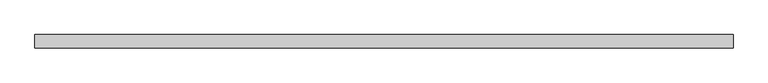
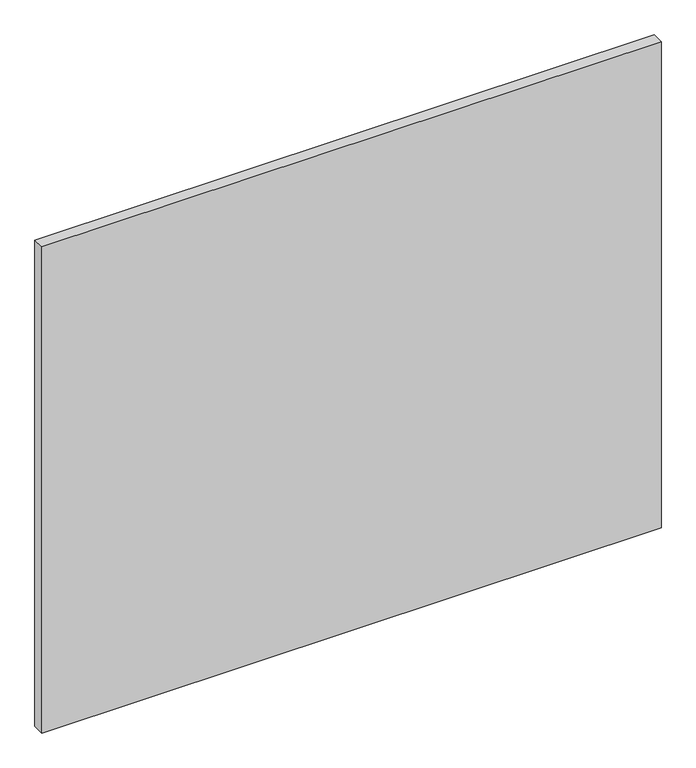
"""IFC4 building model written with IfcOpenShell, lengths in millimetres: plate geometry, システム パネル : ガラス."""

import ifcopenshell
import ifcopenshell.guid

model = None  # the IFC model being written
_history = None  # IfcOwnerHistory: only IFC2X3 demands one
_inside = {}  # id of a spatial element -> (the spatial element, [elements in it])
_under = {}  # id of a project, library or spatial element -> (it, [spatial elements below it])
_declared = {}  # id of a project -> (the project, [libraries it declares])
_typed = {}  # id of a type object -> (the type object, [elements of that type])
_made_of = {}  # id of a material, layer set ... -> (it, [elements and type objects made of it])


def new_model(schema):
    """Start an empty IFC model of exactly this schema.

    Asked for "IFC4X3", IfcOpenShell would pick the latest addendum, in which some entities
    have other attributes; the version numbers below select the first issue.
    IFC2X3 requires an IfcOwnerHistory on every rooted entity: one is made here for all.
    """
    global model, _history
    if schema == "IFC4X3":
        model = ifcopenshell.file(schema_version=(4, 3, 0, 0))
    else:
        model = ifcopenshell.file(schema=schema)
    _inside.clear()
    _under.clear()
    _declared.clear()
    _typed.clear()
    _made_of.clear()
    _history = None
    if model.schema == "IFC2X3":
        org = make("IfcOrganization", Name="unknown")
        user = make(
            "IfcPersonAndOrganization",
            ThePerson=make("IfcPerson", FamilyName="unknown"),
            TheOrganization=org,
        )
        app = make(
            "IfcApplication",
            ApplicationDeveloper=org,
            Version="unknown",
            ApplicationFullName="unknown",
            ApplicationIdentifier="unknown",
        )
        _history = make(
            "IfcOwnerHistory",
            OwningUser=user,
            OwningApplication=app,
            ChangeAction="ADDED",
            CreationDate=0,
        )
    return model


def make(cls, **values):
    """One entity of the class cls with the attributes given. An attribute that is None is left unset."""
    return model.create_entity(
        cls, **{name: value for name, value in values.items() if value is not None}
    )


def rooted(cls, **values):
    """An entity with a GlobalId (a new one), such as an element, a storey or a relation."""
    return make(cls, GlobalId=ifcopenshell.guid.new(), OwnerHistory=_history, **values)


def si_unit(unit_type, name, prefix=None):
    """IfcSIUnit, for example si_unit("LENGTHUNIT", "METRE", prefix="MILLI")."""
    return make("IfcSIUnit", UnitType=unit_type, Prefix=prefix, Name=name)


def assignment(units):
    """IfcUnitAssignment: the units of a project."""
    return None if units is None else make("IfcUnitAssignment", Units=units)


def point(xyz):
    """IfcCartesianPoint."""
    return None if xyz is None else make("IfcCartesianPoint", Coordinates=xyz)


def direction(xyz):
    """IfcDirection."""
    return None if xyz is None else make("IfcDirection", DirectionRatios=xyz)


def frame(location, z_axis=None, x_axis=None):
    """IfcAxis2Placement3D, a coordinate frame: its origin and axes. An axis left out is left unset."""
    return make(
        "IfcAxis2Placement3D",
        Location=point(location),
        Axis=direction(z_axis),
        RefDirection=direction(x_axis),
    )


def origin():
    """The frame at (0, 0, 0) with its axes left unset."""
    return frame((0.0, 0.0, 0.0))


def origin_with_axes():
    """The frame at (0, 0, 0) with the z axis (0, 0, 1) and the x axis (1, 0, 0) written out."""
    return frame((0.0, 0.0, 0.0), z_axis=(0.0, 0.0, 1.0), x_axis=(1.0, 0.0, 0.0))


def place(relative_to, where):
    """IfcLocalPlacement: puts the frame where relative to a parent placement (None: the world)."""
    return make(
        "IfcLocalPlacement", PlacementRelTo=relative_to, RelativePlacement=where
    )


def context(
    kind, dimensions, precision=None, world=None, true_north=None, identifier=None
):
    """IfcGeometricRepresentationContext, for example the 3D "Model" context."""
    return make(
        "IfcGeometricRepresentationContext",
        ContextIdentifier=identifier,
        ContextType=kind,
        CoordinateSpaceDimension=dimensions,
        Precision=precision,
        WorldCoordinateSystem=world,
        TrueNorth=true_north,
    )


def project(units=None, contexts=None):
    """IfcProject with its units and contexts."""
    return rooted(
        "IfcProject",
        Name="project",
        RepresentationContexts=contexts,
        UnitsInContext=assignment(units),
    )


def spatial(cls, under=None, at=None, **own):
    """A site, building, storey or space (cls), placed at a placement, below another one or the project."""
    s = rooted(cls, ObjectPlacement=at, **own)
    if under is not None:
        _under.setdefault(under.id(), (under, []))[1].append(s)
    return s


def polyline(points):
    """IfcPolyline through the points."""
    return make("IfcPolyline", Points=[point(p) for p in points])


def outline(outer, holes=None, kind="AREA"):
    """IfcArbitraryClosedProfileDef: a profile drawn as a closed curve; with holes, ...WithVoids."""
    if holes is None:
        return make("IfcArbitraryClosedProfileDef", ProfileType=kind, OuterCurve=outer)
    return make(
        "IfcArbitraryProfileDefWithVoids",
        ProfileType=kind,
        OuterCurve=outer,
        InnerCurves=holes,
    )


def extrude(swept, where, along, depth):
    """IfcExtrudedAreaSolid: the profile swept, set in the frame where, extruded along a direction by depth."""
    return make(
        "IfcExtrudedAreaSolid",
        SweptArea=swept,
        Position=where,
        ExtrudedDirection=direction(along),
        Depth=depth,
    )


def shape(context_of_items, identifier, shape_type, items):
    """IfcShapeRepresentation: the items that make up one representation, for example the "Body"."""
    return make(
        "IfcShapeRepresentation",
        ContextOfItems=context_of_items,
        RepresentationIdentifier=identifier,
        RepresentationType=shape_type,
        Items=items,
    )


def source(mapping_origin, context_of_items, identifier, shape_type, items):
    """IfcRepresentationMap: a shape defined once, which mapped items show again and again."""
    return make(
        "IfcRepresentationMap",
        MappingOrigin=mapping_origin,
        MappedRepresentation=shape(context_of_items, identifier, shape_type, items),
    )


def transform(
    local_origin,
    x_axis=None,
    y_axis=None,
    z_axis=None,
    scale=None,
    scale2=None,
    scale3=None,
    uniform=True,
):
    """IfcCartesianTransformationOperator3D, or its non-uniform kind. x_axis, y_axis, z_axis: its Axis1, 2, 3."""
    if uniform:
        return make(
            "IfcCartesianTransformationOperator3D",
            Axis1=direction(x_axis),
            Axis2=direction(y_axis),
            LocalOrigin=point(local_origin),
            Scale=scale,
            Axis3=direction(z_axis),
        )
    return make(
        "IfcCartesianTransformationOperator3DnonUniform",
        Axis1=direction(x_axis),
        Axis2=direction(y_axis),
        LocalOrigin=point(local_origin),
        Scale=scale,
        Axis3=direction(z_axis),
        Scale2=scale2,
        Scale3=scale3,
    )


def mapped(mapping_source, mapping_target):
    """IfcMappedItem: shows the shape of a source again, moved by a transform."""
    return make(
        "IfcMappedItem", MappingSource=mapping_source, MappingTarget=mapping_target
    )


def made_of(thing, what):
    """Note that an element or type object is made of a material, layer set ...; save() writes the relation."""
    if what is not None:
        _made_of.setdefault(what.id(), (what, []))[1].append(thing)
    return thing


def element(
    cls,
    number,
    at=None,
    inside=None,
    cuts=None,
    type_object=None,
    material=None,
    context=None,
    identifier="Body",
    shape_type=None,
    held_by="IfcProductDefinitionShape",
    body=None,
    shapes=None,
    **own,
):
    """One element of the class cls, such as IfcWall. Its Tag is "e" and its number.

    at: its placement. inside: the storey or other place that contains it. cuts: it is an
    opening in that element (IfcRelVoidsElement). A single representation is given by context,
    identifier, shape_type and body (its items); several are given by shapes. held_by: the class
    of the entity that holds the representations. save() writes the other relations.
    """
    e = rooted(cls, Tag="e%d" % number, ObjectPlacement=at, **own)
    if body is not None:
        shapes = [shape(context, identifier, shape_type, body)]
    if shapes is not None:
        e.Representation = make(held_by, Representations=shapes)
    if inside is not None:
        _inside.setdefault(inside.id(), (inside, []))[1].append(e)
    if cuts is not None:
        rooted(
            "IfcRelVoidsElement", RelatingBuildingElement=cuts, RelatedOpeningElement=e
        )
    if type_object is not None:
        _typed.setdefault(type_object.id(), (type_object, []))[1].append(e)
    return made_of(e, material)


def aggregate(whole, parts):
    """IfcRelAggregates: a whole, such as a stair, and the parts it consists of."""
    return rooted("IfcRelAggregates", RelatingObject=whole, RelatedObjects=parts)


def save(model, path):
    """Write the relations noted so far, then the file.

    IfcRelAggregates (storeys below a building ...), IfcRelContainedInSpatialStructure (elements
    in a storey), IfcRelDefinesByType, IfcRelAssociatesMaterial and IfcRelDeclares: one each for
    every whole, place, type object, material and project.
    """
    for whole, parts in _under.values():
        aggregate(whole, parts)
    for where, things in _inside.values():
        rooted(
            "IfcRelContainedInSpatialStructure",
            RelatedElements=things,
            RelatingStructure=where,
        )
    for kind, things in _typed.values():
        rooted("IfcRelDefinesByType", RelatedObjects=things, RelatingType=kind)
    for what, things in _made_of.values():
        rooted("IfcRelAssociatesMaterial", RelatedObjects=things, RelatingMaterial=what)
    for by, libraries in _declared.values():
        rooted("IfcRelDeclares", RelatingContext=by, RelatedDefinitions=libraries)
    model.write(path)


def plate_3adb60b4(model_context):
    return source(origin(), model_context, "Body", "SweptSolid", [
        extrude(outline(polyline([(662.5000001, -49.5), (-662.5000001, -49.5), (-662.5000001, -24.5), (662.5000001, -24.5), (662.5000001, -49.5)])), origin_with_axes(), (0.0, 0.0, 1.0), 1100.0),
    ])


if __name__ == "__main__":
    model = new_model("IFC4")
    model_context = context("Model", 3, world=origin())
    ifc_project = project(units=[si_unit("LENGTHUNIT", "METRE", prefix="MILLI")], contexts=[model_context])
    site = spatial("IfcSite", under=ifc_project)
    building = spatial("IfcBuilding", under=site)
    placement = place(None, origin())
    plate_shape = plate_3adb60b4(model_context)
    element("IfcPlate", 1, ObjectType="システム パネル : ガラス", at=placement, inside=building, context=model_context, shape_type="MappedRepresentation", body=[
        mapped(plate_shape, transform((0.0, 0.0, 0.0), x_axis=(1.0, 0.0, 0.0), y_axis=(0.0, 1.0, 0.0), z_axis=(0.0, 0.0, 1.0))),
    ])
    save(model, "model.ifc")
